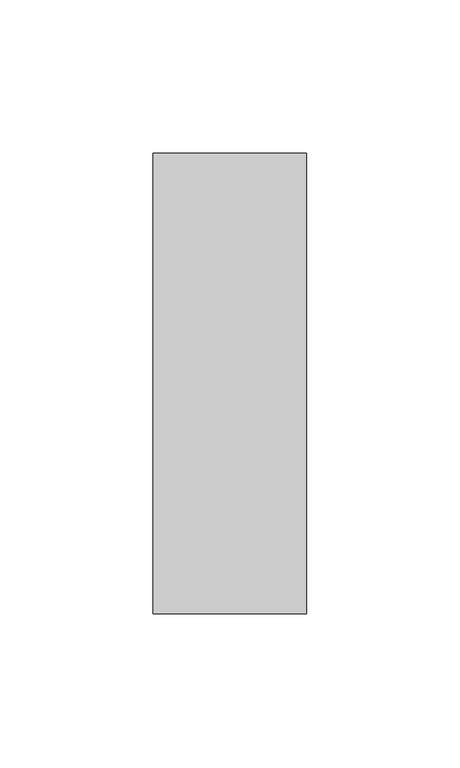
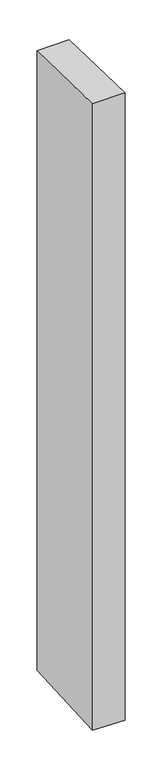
"""IFC4 building model written with IfcOpenShell, lengths in millimetres: member geometry, Прямоугольный импост : 50 x 150 мм."""

from ifc_helpers import new_model, si_unit, origin, place, context, project, spatial, faceted_brep, source, transform, mapped, element, save


def member_5feb3faf(model_context):
    return source(origin(), model_context, "Body", "Brep", [
        faceted_brep([(-25.0, 75.0, -2.5051623), (25.0, 75.0, -1.539172), (25.0, 75.0, -1019.9357243), (-25.0, 75.0, -1019.0020509), (-25.0, -75.0, 1.539172), (-25.0, -75.0, -1026.9608571), (25.0, -75.0, 2.5051623), (25.0, -75.0, -1027.8945305)], [[[0, 1, 2, 3]], [[4, 0, 3, 5]], [[6, 4, 5, 7]], [[1, 6, 7, 2]], [[1, 0, 4, 6]], [[2, 7, 5, 3]]]),
    ])


if __name__ == "__main__":
    model = new_model("IFC4")
    model_context = context("Model", 3, world=origin())
    ifc_project = project(units=[si_unit("LENGTHUNIT", "METRE", prefix="MILLI")], contexts=[model_context])
    site = spatial("IfcSite", under=ifc_project)
    building = spatial("IfcBuilding", under=site)
    placement = place(None, origin())
    member_shape = member_5feb3faf(model_context)
    element("IfcMember", 1, ObjectType="Прямоугольный импост : 50 x 150 мм", at=placement, inside=building, context=model_context, shape_type="MappedRepresentation", body=[
        mapped(member_shape, transform((0.0, 0.0, 0.0), x_axis=(1.0, 0.0, 0.0), y_axis=(0.0, 1.0, 0.0), z_axis=(0.0, 0.0, 1.0))),
    ])
    save(model, "model.ifc")
